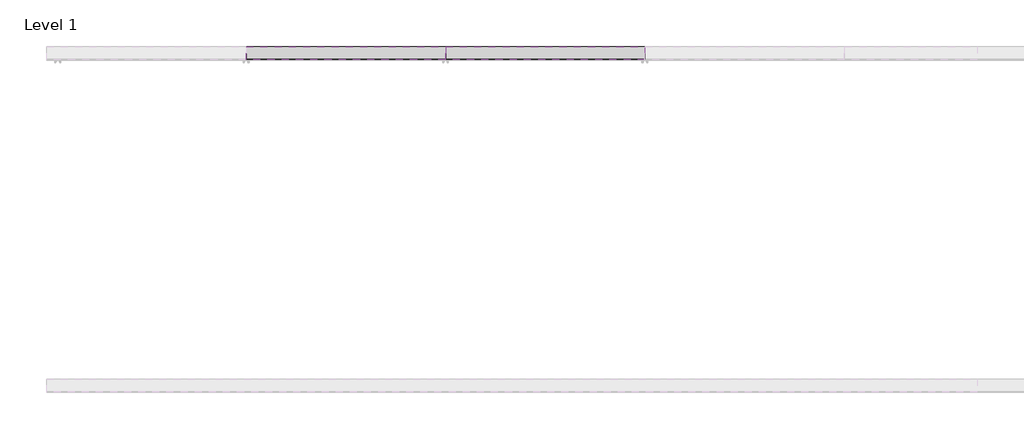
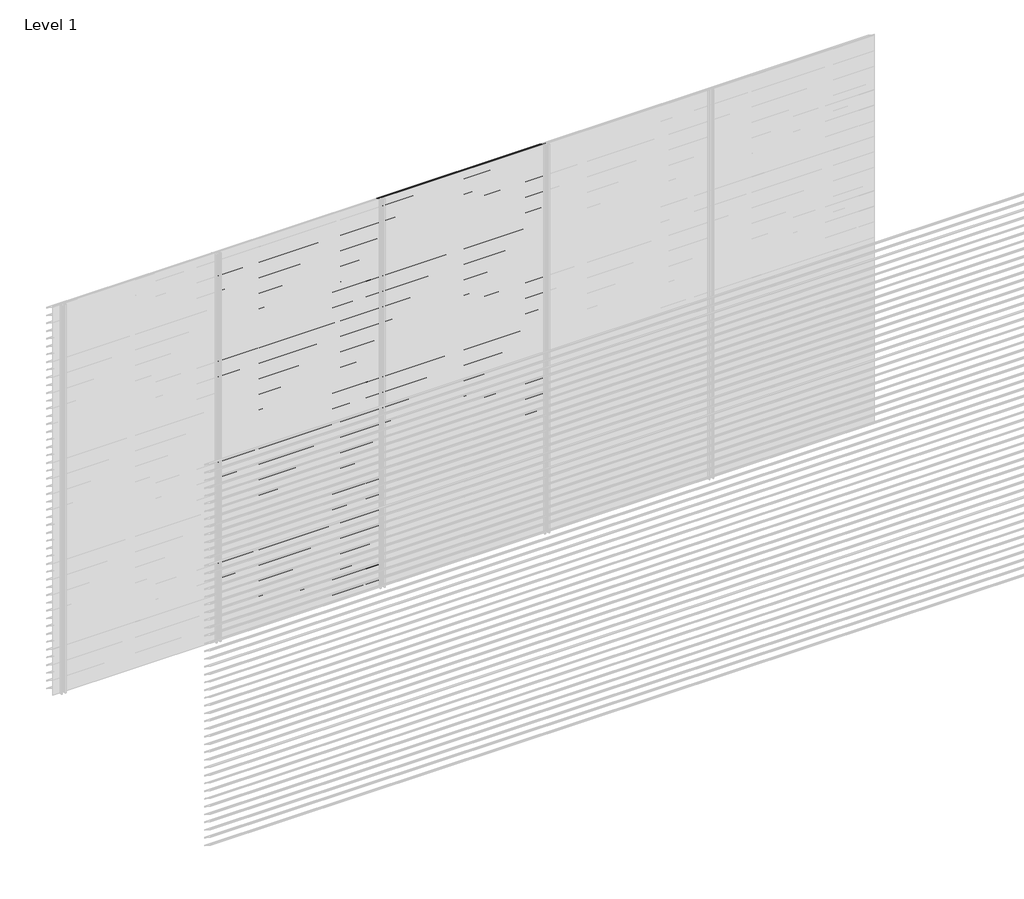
# One storey, part 127 of 153: 84 proxies.
"""IFC4 building model written with IfcOpenShell, lengths in millimetres."""

from ifc_helpers import new_model, si_unit, frame, origin, place, context, project, spatial, polyline, outline, extrude, element, save

model = new_model("IFC4")

# Units and contexts
model_context = context("Model", 3, world=origin())
ifc_project = project(units=[si_unit("LENGTHUNIT", "METRE", prefix="MILLI")], contexts=[model_context])

# Site, building, storey
site = spatial("IfcSite", under=ifc_project)
building = spatial("IfcBuilding", under=site)
storey = spatial("IfcBuildingStorey", under=building, Name="Level 1", Elevation=0.0)

# Proxies
placement = place(None, origin())
element("IfcBuildingElementProxy", 1, Name="Wall Sweeps", at=placement, inside=storey, context=model_context, shape_type="SweptSolid", body=[
    extrude(outline(polyline([(66561.0540136, 2826.0), (66561.0540136, 2820.0), (66559.8040136, 2820.7216933), (66559.8040136, 2825.2538091), (66483.0540136, 2873.9915103), (66483.0540136, 2880.0), (66484.3040136, 2880.0), (66484.3040136, 2874.7377012), (66561.0540136, 2826.0)])), frame((1666.6208099, 0.0, 0.0), z_axis=(1.0, 0.0, 0.0), x_axis=(0.0, 1.0, 0.0)), (0.0, 0.0, 1.0), 1199.9999999),
])
element("IfcBuildingElementProxy", 2, Name="Wall Sweeps", at=placement, inside=storey, context=model_context, shape_type="SweptSolid", body=[
    extrude(outline(polyline([(66561.0540136, 2766.0), (66561.0540136, 2760.0), (66559.8040136, 2760.7216933), (66559.8040136, 2765.2538091), (66483.0540136, 2813.9915103), (66483.0540136, 2820.0), (66484.3040136, 2820.0), (66484.3040136, 2814.7377012), (66561.0540136, 2766.0)])), frame((1666.6208099, 0.0, 0.0), z_axis=(1.0, 0.0, 0.0), x_axis=(0.0, 1.0, 0.0)), (0.0, 0.0, 1.0), 1199.9999999),
])
element("IfcBuildingElementProxy", 3, Name="Wall Sweeps", at=placement, inside=storey, context=model_context, shape_type="SweptSolid", body=[
    extrude(outline(polyline([(66561.0540136, 2706.0), (66561.0540136, 2700.0), (66559.8040136, 2700.7216933), (66559.8040136, 2705.2538091), (66483.0540136, 2753.9915103), (66483.0540136, 2760.0), (66484.3040136, 2760.0), (66484.3040136, 2754.7377012), (66561.0540136, 2706.0)])), frame((1666.6208099, 0.0, 0.0), z_axis=(1.0, 0.0, 0.0), x_axis=(0.0, 1.0, 0.0)), (0.0, 0.0, 1.0), 1199.9999999),
])
element("IfcBuildingElementProxy", 4, Name="Wall Sweeps", at=placement, inside=storey, context=model_context, shape_type="SweptSolid", body=[
    extrude(outline(polyline([(66561.0540136, 2646.0), (66561.0540136, 2640.0), (66559.8040136, 2640.7216933), (66559.8040136, 2645.2538091), (66483.0540136, 2693.9915103), (66483.0540136, 2700.0), (66484.3040136, 2700.0), (66484.3040136, 2694.7377012), (66561.0540136, 2646.0)])), frame((1666.6208099, 0.0, 0.0), z_axis=(1.0, 0.0, 0.0), x_axis=(0.0, 1.0, 0.0)), (0.0, 0.0, 1.0), 1199.9999999),
])
element("IfcBuildingElementProxy", 5, Name="Wall Sweeps", at=placement, inside=storey, context=model_context, shape_type="SweptSolid", body=[
    extrude(outline(polyline([(66561.0540136, 2586.0), (66561.0540136, 2580.0), (66559.8040136, 2580.7216933), (66559.8040136, 2585.2538091), (66483.0540136, 2633.9915103), (66483.0540136, 2640.0), (66484.3040136, 2640.0), (66484.3040136, 2634.7377012), (66561.0540136, 2586.0)])), frame((1666.6208099, 0.0, 0.0), z_axis=(1.0, 0.0, 0.0), x_axis=(0.0, 1.0, 0.0)), (0.0, 0.0, 1.0), 1199.9999999),
])
element("IfcBuildingElementProxy", 6, Name="Wall Sweeps", at=placement, inside=storey, context=model_context, shape_type="SweptSolid", body=[
    extrude(outline(polyline([(66561.0540136, 2526.0), (66561.0540136, 2520.0), (66559.8040136, 2520.7216933), (66559.8040136, 2525.2538091), (66483.0540136, 2573.9915103), (66483.0540136, 2580.0), (66484.3040136, 2580.0), (66484.3040136, 2574.7377012), (66561.0540136, 2526.0)])), frame((1666.6208099, 0.0, 0.0), z_axis=(1.0, 0.0, 0.0), x_axis=(0.0, 1.0, 0.0)), (0.0, 0.0, 1.0), 1199.9999999),
])
element("IfcBuildingElementProxy", 7, Name="Wall Sweeps", at=placement, inside=storey, context=model_context, shape_type="SweptSolid", body=[
    extrude(outline(polyline([(66561.0540136, 2466.0), (66561.0540136, 2460.0), (66559.8040136, 2460.7216933), (66559.8040136, 2465.2538091), (66483.0540136, 2513.9915103), (66483.0540136, 2520.0), (66484.3040136, 2520.0), (66484.3040136, 2514.7377012), (66561.0540136, 2466.0)])), frame((1666.6208099, 0.0, 0.0), z_axis=(1.0, 0.0, 0.0), x_axis=(0.0, 1.0, 0.0)), (0.0, 0.0, 1.0), 1199.9999999),
])
element("IfcBuildingElementProxy", 8, Name="Wall Sweeps", at=placement, inside=storey, context=model_context, shape_type="SweptSolid", body=[
    extrude(outline(polyline([(66561.0540136, 2406.0), (66561.0540136, 2400.0), (66559.8040136, 2400.7216933), (66559.8040136, 2405.2538091), (66483.0540136, 2453.9915103), (66483.0540136, 2460.0), (66484.3040136, 2460.0), (66484.3040136, 2454.7377012), (66561.0540136, 2406.0)])), frame((1666.6208099, 0.0, 0.0), z_axis=(1.0, 0.0, 0.0), x_axis=(0.0, 1.0, 0.0)), (0.0, 0.0, 1.0), 1199.9999999),
])
element("IfcBuildingElementProxy", 9, Name="Wall Sweeps", at=placement, inside=storey, context=model_context, shape_type="SweptSolid", body=[
    extrude(outline(polyline([(66561.0540136, 2346.0), (66561.0540136, 2340.0), (66559.8040136, 2340.7216933), (66559.8040136, 2345.2538091), (66483.0540136, 2393.9915103), (66483.0540136, 2400.0), (66484.3040136, 2400.0), (66484.3040136, 2394.7377012), (66561.0540136, 2346.0)])), frame((1666.6208099, 0.0, 0.0), z_axis=(1.0, 0.0, 0.0), x_axis=(0.0, 1.0, 0.0)), (0.0, 0.0, 1.0), 1199.9999999),
])
element("IfcBuildingElementProxy", 10, Name="Wall Sweeps", at=placement, inside=storey, context=model_context, shape_type="SweptSolid", body=[
    extrude(outline(polyline([(66561.0540136, 2286.0), (66561.0540136, 2280.0), (66559.8040136, 2280.7216933), (66559.8040136, 2285.2538091), (66483.0540136, 2333.9915103), (66483.0540136, 2340.0), (66484.3040136, 2340.0), (66484.3040136, 2334.7377012), (66561.0540136, 2286.0)])), frame((1666.6208099, 0.0, 0.0), z_axis=(1.0, 0.0, 0.0), x_axis=(0.0, 1.0, 0.0)), (0.0, 0.0, 1.0), 1199.9999999),
])
element("IfcBuildingElementProxy", 11, Name="Wall Sweeps", at=placement, inside=storey, context=model_context, shape_type="SweptSolid", body=[
    extrude(outline(polyline([(66561.0540136, 2226.0), (66561.0540136, 2220.0), (66559.8040136, 2220.7216933), (66559.8040136, 2225.2538091), (66483.0540136, 2273.9915103), (66483.0540136, 2280.0), (66484.3040136, 2280.0), (66484.3040136, 2274.7377012), (66561.0540136, 2226.0)])), frame((1666.6208099, 0.0, 0.0), z_axis=(1.0, 0.0, 0.0), x_axis=(0.0, 1.0, 0.0)), (0.0, 0.0, 1.0), 1199.9999999),
])
element("IfcBuildingElementProxy", 12, Name="Wall Sweeps", at=placement, inside=storey, context=model_context, shape_type="SweptSolid", body=[
    extrude(outline(polyline([(66561.0540136, 2166.0), (66561.0540136, 2160.0), (66559.8040136, 2160.7216933), (66559.8040136, 2165.2538091), (66483.0540136, 2213.9915103), (66483.0540136, 2220.0), (66484.3040136, 2220.0), (66484.3040136, 2214.7377012), (66561.0540136, 2166.0)])), frame((1666.6208099, 0.0, 0.0), z_axis=(1.0, 0.0, 0.0), x_axis=(0.0, 1.0, 0.0)), (0.0, 0.0, 1.0), 1199.9999999),
])
element("IfcBuildingElementProxy", 13, Name="Wall Sweeps", at=placement, inside=storey, context=model_context, shape_type="SweptSolid", body=[
    extrude(outline(polyline([(66561.0540136, 2106.0), (66561.0540136, 2100.0), (66559.8040136, 2100.7216933), (66559.8040136, 2105.2538091), (66483.0540136, 2153.9915103), (66483.0540136, 2160.0), (66484.3040136, 2160.0), (66484.3040136, 2154.7377012), (66561.0540136, 2106.0)])), frame((1666.6208099, 0.0, 0.0), z_axis=(1.0, 0.0, 0.0), x_axis=(0.0, 1.0, 0.0)), (0.0, 0.0, 1.0), 1199.9999999),
])
element("IfcBuildingElementProxy", 14, Name="Wall Sweeps", at=placement, inside=storey, context=model_context, shape_type="SweptSolid", body=[
    extrude(outline(polyline([(66561.0540136, 2046.0), (66561.0540136, 2040.0), (66559.8040136, 2040.7216933), (66559.8040136, 2045.2538091), (66483.0540136, 2093.9915103), (66483.0540136, 2100.0), (66484.3040136, 2100.0), (66484.3040136, 2094.7377012), (66561.0540136, 2046.0)])), frame((1666.6208099, 0.0, 0.0), z_axis=(1.0, 0.0, 0.0), x_axis=(0.0, 1.0, 0.0)), (0.0, 0.0, 1.0), 1199.9999999),
])
element("IfcBuildingElementProxy", 15, Name="Wall Sweeps", at=placement, inside=storey, context=model_context, shape_type="SweptSolid", body=[
    extrude(outline(polyline([(66561.0540136, 1986.0), (66561.0540136, 1980.0), (66559.8040136, 1980.7216933), (66559.8040136, 1985.2538091), (66483.0540136, 2033.9915103), (66483.0540136, 2040.0), (66484.3040136, 2040.0), (66484.3040136, 2034.7377012), (66561.0540136, 1986.0)])), frame((1666.6208099, 0.0, 0.0), z_axis=(1.0, 0.0, 0.0), x_axis=(0.0, 1.0, 0.0)), (0.0, 0.0, 1.0), 1199.9999999),
])
element("IfcBuildingElementProxy", 16, Name="Wall Sweeps", at=placement, inside=storey, context=model_context, shape_type="SweptSolid", body=[
    extrude(outline(polyline([(66561.0540136, 1926.0), (66561.0540136, 1920.0), (66559.8040136, 1920.7216933), (66559.8040136, 1925.2538091), (66483.0540136, 1973.9915103), (66483.0540136, 1980.0), (66484.3040136, 1980.0), (66484.3040136, 1974.7377012), (66561.0540136, 1926.0)])), frame((1666.6208099, 0.0, 0.0), z_axis=(1.0, 0.0, 0.0), x_axis=(0.0, 1.0, 0.0)), (0.0, 0.0, 1.0), 1199.9999999),
])
element("IfcBuildingElementProxy", 17, Name="Wall Sweeps", at=placement, inside=storey, context=model_context, shape_type="SweptSolid", body=[
    extrude(outline(polyline([(66561.0540136, 1866.0), (66561.0540136, 1860.0), (66559.8040136, 1860.7216933), (66559.8040136, 1865.2538091), (66483.0540136, 1913.9915103), (66483.0540136, 1920.0), (66484.3040136, 1920.0), (66484.3040136, 1914.7377012), (66561.0540136, 1866.0)])), frame((1666.6208099, 0.0, 0.0), z_axis=(1.0, 0.0, 0.0), x_axis=(0.0, 1.0, 0.0)), (0.0, 0.0, 1.0), 1199.9999999),
])
element("IfcBuildingElementProxy", 18, Name="Wall Sweeps", at=placement, inside=storey, context=model_context, shape_type="SweptSolid", body=[
    extrude(outline(polyline([(66561.0540136, 1806.0), (66561.0540136, 1800.0), (66559.8040136, 1800.7216933), (66559.8040136, 1805.2538091), (66483.0540136, 1853.9915103), (66483.0540136, 1860.0), (66484.3040136, 1860.0), (66484.3040136, 1854.7377012), (66561.0540136, 1806.0)])), frame((1666.6208099, 0.0, 0.0), z_axis=(1.0, 0.0, 0.0), x_axis=(0.0, 1.0, 0.0)), (0.0, 0.0, 1.0), 1199.9999999),
])
element("IfcBuildingElementProxy", 19, Name="Wall Sweeps", at=placement, inside=storey, context=model_context, shape_type="SweptSolid", body=[
    extrude(outline(polyline([(66561.0540136, 1746.0), (66561.0540136, 1740.0), (66559.8040136, 1740.7216933), (66559.8040136, 1745.2538091), (66483.0540136, 1793.9915103), (66483.0540136, 1800.0), (66484.3040136, 1800.0), (66484.3040136, 1794.7377012), (66561.0540136, 1746.0)])), frame((1666.6208099, 0.0, 0.0), z_axis=(1.0, 0.0, 0.0), x_axis=(0.0, 1.0, 0.0)), (0.0, 0.0, 1.0), 1199.9999999),
])
element("IfcBuildingElementProxy", 20, Name="Wall Sweeps", at=placement, inside=storey, context=model_context, shape_type="SweptSolid", body=[
    extrude(outline(polyline([(66561.0540136, 1686.0), (66561.0540136, 1680.0), (66559.8040136, 1680.7216933), (66559.8040136, 1685.2538091), (66483.0540136, 1733.9915103), (66483.0540136, 1740.0), (66484.3040136, 1740.0), (66484.3040136, 1734.7377012), (66561.0540136, 1686.0)])), frame((1666.6208099, 0.0, 0.0), z_axis=(1.0, 0.0, 0.0), x_axis=(0.0, 1.0, 0.0)), (0.0, 0.0, 1.0), 1199.9999999),
])
element("IfcBuildingElementProxy", 21, Name="Wall Sweeps", at=placement, inside=storey, context=model_context, shape_type="SweptSolid", body=[
    extrude(outline(polyline([(66561.0540136, 1626.0), (66561.0540136, 1620.0), (66559.8040136, 1620.7216933), (66559.8040136, 1625.2538091), (66483.0540136, 1673.9915103), (66483.0540136, 1680.0), (66484.3040136, 1680.0), (66484.3040136, 1674.7377012), (66561.0540136, 1626.0)])), frame((1666.6208099, 0.0, 0.0), z_axis=(1.0, 0.0, 0.0), x_axis=(0.0, 1.0, 0.0)), (0.0, 0.0, 1.0), 1199.9999999),
])
element("IfcBuildingElementProxy", 22, Name="Wall Sweeps", at=placement, inside=storey, context=model_context, shape_type="SweptSolid", body=[
    extrude(outline(polyline([(66561.0540136, 1566.0), (66561.0540136, 1560.0), (66559.8040136, 1560.7216933), (66559.8040136, 1565.2538091), (66483.0540136, 1613.9915103), (66483.0540136, 1620.0), (66484.3040136, 1620.0), (66484.3040136, 1614.7377012), (66561.0540136, 1566.0)])), frame((1666.6208099, 0.0, 0.0), z_axis=(1.0, 0.0, 0.0), x_axis=(0.0, 1.0, 0.0)), (0.0, 0.0, 1.0), 1199.9999999),
])
element("IfcBuildingElementProxy", 23, Name="Wall Sweeps", at=placement, inside=storey, context=model_context, shape_type="SweptSolid", body=[
    extrude(outline(polyline([(66561.0540136, 1506.0), (66561.0540136, 1500.0), (66559.8040136, 1500.7216933), (66559.8040136, 1505.2538091), (66483.0540136, 1553.9915103), (66483.0540136, 1560.0), (66484.3040136, 1560.0), (66484.3040136, 1554.7377012), (66561.0540136, 1506.0)])), frame((1666.6208099, 0.0, 0.0), z_axis=(1.0, 0.0, 0.0), x_axis=(0.0, 1.0, 0.0)), (0.0, 0.0, 1.0), 1199.9999999),
])
element("IfcBuildingElementProxy", 24, Name="Wall Sweeps", at=placement, inside=storey, context=model_context, shape_type="SweptSolid", body=[
    extrude(outline(polyline([(66561.0540136, 1446.0), (66561.0540136, 1440.0), (66559.8040136, 1440.7216933), (66559.8040136, 1445.2538091), (66483.0540136, 1493.9915103), (66483.0540136, 1500.0), (66484.3040136, 1500.0), (66484.3040136, 1494.7377012), (66561.0540136, 1446.0)])), frame((1666.6208099, 0.0, 0.0), z_axis=(1.0, 0.0, 0.0), x_axis=(0.0, 1.0, 0.0)), (0.0, 0.0, 1.0), 1199.9999999),
])
element("IfcBuildingElementProxy", 25, Name="Wall Sweeps", at=placement, inside=storey, context=model_context, shape_type="SweptSolid", body=[
    extrude(outline(polyline([(66561.0540136, 1386.0), (66561.0540136, 1380.0), (66559.8040136, 1380.7216933), (66559.8040136, 1385.2538091), (66483.0540136, 1433.9915103), (66483.0540136, 1440.0), (66484.3040136, 1440.0), (66484.3040136, 1434.7377012), (66561.0540136, 1386.0)])), frame((1666.6208099, 0.0, 0.0), z_axis=(1.0, 0.0, 0.0), x_axis=(0.0, 1.0, 0.0)), (0.0, 0.0, 1.0), 1199.9999999),
])
element("IfcBuildingElementProxy", 26, Name="Wall Sweeps", at=placement, inside=storey, context=model_context, shape_type="SweptSolid", body=[
    extrude(outline(polyline([(66561.0540136, 1326.0), (66561.0540136, 1320.0), (66559.8040136, 1320.7216933), (66559.8040136, 1325.2538091), (66483.0540136, 1373.9915103), (66483.0540136, 1380.0), (66484.3040136, 1380.0), (66484.3040136, 1374.7377012), (66561.0540136, 1326.0)])), frame((1666.6208099, 0.0, 0.0), z_axis=(1.0, 0.0, 0.0), x_axis=(0.0, 1.0, 0.0)), (0.0, 0.0, 1.0), 1199.9999999),
])
element("IfcBuildingElementProxy", 27, Name="Wall Sweeps", at=placement, inside=storey, context=model_context, shape_type="SweptSolid", body=[
    extrude(outline(polyline([(66561.0540136, 1266.0), (66561.0540136, 1260.0), (66559.8040136, 1260.7216933), (66559.8040136, 1265.2538091), (66483.0540136, 1313.9915103), (66483.0540136, 1320.0), (66484.3040136, 1320.0), (66484.3040136, 1314.7377012), (66561.0540136, 1266.0)])), frame((1666.6208099, 0.0, 0.0), z_axis=(1.0, 0.0, 0.0), x_axis=(0.0, 1.0, 0.0)), (0.0, 0.0, 1.0), 1199.9999999),
])
element("IfcBuildingElementProxy", 28, Name="Wall Sweeps", at=placement, inside=storey, context=model_context, shape_type="SweptSolid", body=[
    extrude(outline(polyline([(66561.0540136, 1206.0), (66561.0540136, 1200.0), (66559.8040136, 1200.7216933), (66559.8040136, 1205.2538091), (66483.0540136, 1253.9915103), (66483.0540136, 1260.0), (66484.3040136, 1260.0), (66484.3040136, 1254.7377012), (66561.0540136, 1206.0)])), frame((1666.6208099, 0.0, 0.0), z_axis=(1.0, 0.0, 0.0), x_axis=(0.0, 1.0, 0.0)), (0.0, 0.0, 1.0), 1199.9999999),
])
element("IfcBuildingElementProxy", 29, Name="Wall Sweeps", at=placement, inside=storey, context=model_context, shape_type="SweptSolid", body=[
    extrude(outline(polyline([(66561.0540136, 1146.0), (66561.0540136, 1140.0), (66559.8040136, 1140.7216933), (66559.8040136, 1145.2538091), (66483.0540136, 1193.9915103), (66483.0540136, 1200.0), (66484.3040136, 1200.0), (66484.3040136, 1194.7377012), (66561.0540136, 1146.0)])), frame((1666.6208099, 0.0, 0.0), z_axis=(1.0, 0.0, 0.0), x_axis=(0.0, 1.0, 0.0)), (0.0, 0.0, 1.0), 1199.9999999),
])
element("IfcBuildingElementProxy", 30, Name="Wall Sweeps", at=placement, inside=storey, context=model_context, shape_type="SweptSolid", body=[
    extrude(outline(polyline([(66561.0540136, 1086.0), (66561.0540136, 1080.0), (66559.8040136, 1080.7216933), (66559.8040136, 1085.2538091), (66483.0540136, 1133.9915103), (66483.0540136, 1140.0), (66484.3040136, 1140.0), (66484.3040136, 1134.7377012), (66561.0540136, 1086.0)])), frame((1666.6208099, 0.0, 0.0), z_axis=(1.0, 0.0, 0.0), x_axis=(0.0, 1.0, 0.0)), (0.0, 0.0, 1.0), 1199.9999999),
])
element("IfcBuildingElementProxy", 31, Name="Wall Sweeps", at=placement, inside=storey, context=model_context, shape_type="SweptSolid", body=[
    extrude(outline(polyline([(66561.0540136, 1026.0), (66561.0540136, 1020.0), (66559.8040136, 1020.7216933), (66559.8040136, 1025.2538091), (66483.0540136, 1073.9915103), (66483.0540136, 1080.0), (66484.3040136, 1080.0), (66484.3040136, 1074.7377012), (66561.0540136, 1026.0)])), frame((1666.6208099, 0.0, 0.0), z_axis=(1.0, 0.0, 0.0), x_axis=(0.0, 1.0, 0.0)), (0.0, 0.0, 1.0), 1199.9999999),
])
element("IfcBuildingElementProxy", 32, Name="Wall Sweeps", at=placement, inside=storey, context=model_context, shape_type="SweptSolid", body=[
    extrude(outline(polyline([(66561.0540136, 966.0), (66561.0540136, 960.0), (66559.8040136, 960.7216933), (66559.8040136, 965.2538091), (66483.0540136, 1013.9915103), (66483.0540136, 1020.0), (66484.3040136, 1020.0), (66484.3040136, 1014.7377012), (66561.0540136, 966.0)])), frame((1666.6208099, 0.0, 0.0), z_axis=(1.0, 0.0, 0.0), x_axis=(0.0, 1.0, 0.0)), (0.0, 0.0, 1.0), 1199.9999999),
])
element("IfcBuildingElementProxy", 33, Name="Wall Sweeps", at=placement, inside=storey, context=model_context, shape_type="SweptSolid", body=[
    extrude(outline(polyline([(66561.0540136, 906.0), (66561.0540136, 900.0), (66559.8040136, 900.7216933), (66559.8040136, 905.2538091), (66483.0540136, 953.9915103), (66483.0540136, 960.0), (66484.3040136, 960.0), (66484.3040136, 954.7377012), (66561.0540136, 906.0)])), frame((1666.6208099, 0.0, 0.0), z_axis=(1.0, 0.0, 0.0), x_axis=(0.0, 1.0, 0.0)), (0.0, 0.0, 1.0), 1199.9999999),
])
element("IfcBuildingElementProxy", 34, Name="Wall Sweeps", at=placement, inside=storey, context=model_context, shape_type="SweptSolid", body=[
    extrude(outline(polyline([(66561.0540136, 846.0), (66561.0540136, 840.0), (66559.8040136, 840.7216933), (66559.8040136, 845.2538091), (66483.0540136, 893.9915103), (66483.0540136, 900.0), (66484.3040136, 900.0), (66484.3040136, 894.7377012), (66561.0540136, 846.0)])), frame((1666.6208099, 0.0, 0.0), z_axis=(1.0, 0.0, 0.0), x_axis=(0.0, 1.0, 0.0)), (0.0, 0.0, 1.0), 1199.9999999),
])
element("IfcBuildingElementProxy", 35, Name="Wall Sweeps", at=placement, inside=storey, context=model_context, shape_type="SweptSolid", body=[
    extrude(outline(polyline([(66561.0540136, 786.0), (66561.0540136, 780.0), (66559.8040136, 780.7216933), (66559.8040136, 785.2538091), (66483.0540136, 833.9915103), (66483.0540136, 840.0), (66484.3040136, 840.0), (66484.3040136, 834.7377012), (66561.0540136, 786.0)])), frame((1666.6208099, 0.0, 0.0), z_axis=(1.0, 0.0, 0.0), x_axis=(0.0, 1.0, 0.0)), (0.0, 0.0, 1.0), 1199.9999999),
])
element("IfcBuildingElementProxy", 36, Name="Wall Sweeps", at=placement, inside=storey, context=model_context, shape_type="SweptSolid", body=[
    extrude(outline(polyline([(66561.0540136, 726.0), (66561.0540136, 720.0), (66559.8040136, 720.7216933), (66559.8040136, 725.2538091), (66483.0540136, 773.9915103), (66483.0540136, 780.0), (66484.3040136, 780.0), (66484.3040136, 774.7377012), (66561.0540136, 726.0)])), frame((1666.6208099, 0.0, 0.0), z_axis=(1.0, 0.0, 0.0), x_axis=(0.0, 1.0, 0.0)), (0.0, 0.0, 1.0), 1199.9999999),
])
element("IfcBuildingElementProxy", 37, Name="Wall Sweeps", at=placement, inside=storey, context=model_context, shape_type="SweptSolid", body=[
    extrude(outline(polyline([(66561.0540136, 666.0), (66561.0540136, 660.0), (66559.8040136, 660.7216933), (66559.8040136, 665.2538091), (66483.0540136, 713.9915103), (66483.0540136, 720.0), (66484.3040136, 720.0), (66484.3040136, 714.7377012), (66561.0540136, 666.0)])), frame((1666.6208099, 0.0, 0.0), z_axis=(1.0, 0.0, 0.0), x_axis=(0.0, 1.0, 0.0)), (0.0, 0.0, 1.0), 1199.9999999),
])
element("IfcBuildingElementProxy", 38, Name="Wall Sweeps", at=placement, inside=storey, context=model_context, shape_type="SweptSolid", body=[
    extrude(outline(polyline([(66561.0540136, 606.0), (66561.0540136, 600.0), (66559.8040136, 600.7216933), (66559.8040136, 605.2538091), (66483.0540136, 653.9915103), (66483.0540136, 660.0), (66484.3040136, 660.0), (66484.3040136, 654.7377012), (66561.0540136, 606.0)])), frame((1666.6208099, 0.0, 0.0), z_axis=(1.0, 0.0, 0.0), x_axis=(0.0, 1.0, 0.0)), (0.0, 0.0, 1.0), 1199.9999999),
])
element("IfcBuildingElementProxy", 39, Name="Wall Sweeps", at=placement, inside=storey, context=model_context, shape_type="SweptSolid", body=[
    extrude(outline(polyline([(66561.0540136, 546.0), (66561.0540136, 540.0), (66559.8040136, 540.7216933), (66559.8040136, 545.2538091), (66483.0540136, 593.9915103), (66483.0540136, 600.0), (66484.3040136, 600.0), (66484.3040136, 594.7377012), (66561.0540136, 546.0)])), frame((1666.6208099, 0.0, 0.0), z_axis=(1.0, 0.0, 0.0), x_axis=(0.0, 1.0, 0.0)), (0.0, 0.0, 1.0), 1199.9999999),
])
element("IfcBuildingElementProxy", 40, Name="Wall Sweeps", at=placement, inside=storey, context=model_context, shape_type="SweptSolid", body=[
    extrude(outline(polyline([(66561.0540136, 486.0), (66561.0540136, 480.0), (66559.8040136, 480.7216933), (66559.8040136, 485.2538091), (66483.0540136, 533.9915103), (66483.0540136, 540.0), (66484.3040136, 540.0), (66484.3040136, 534.7377012), (66561.0540136, 486.0)])), frame((1666.6208099, 0.0, 0.0), z_axis=(1.0, 0.0, 0.0), x_axis=(0.0, 1.0, 0.0)), (0.0, 0.0, 1.0), 1199.9999999),
])
element("IfcBuildingElementProxy", 41, Name="Wall Sweeps", at=placement, inside=storey, context=model_context, shape_type="SweptSolid", body=[
    extrude(outline(polyline([(66561.0540136, 426.0), (66561.0540136, 420.0), (66559.8040136, 420.7216933), (66559.8040136, 425.2538091), (66483.0540136, 473.9915103), (66483.0540136, 480.0), (66484.3040136, 480.0), (66484.3040136, 474.7377012), (66561.0540136, 426.0)])), frame((1666.6208099, 0.0, 0.0), z_axis=(1.0, 0.0, 0.0), x_axis=(0.0, 1.0, 0.0)), (0.0, 0.0, 1.0), 1199.9999999),
])
element("IfcBuildingElementProxy", 42, Name="Wall Sweeps", at=placement, inside=storey, context=model_context, shape_type="SweptSolid", body=[
    extrude(outline(polyline([(66561.0540136, 366.0), (66561.0540136, 360.0), (66559.8040136, 360.7216933), (66559.8040136, 365.2538091), (66483.0540136, 413.9915103), (66483.0540136, 420.0), (66484.3040136, 420.0), (66484.3040136, 414.7377012), (66561.0540136, 366.0)])), frame((1666.6208099, 0.0, 0.0), z_axis=(1.0, 0.0, 0.0), x_axis=(0.0, 1.0, 0.0)), (0.0, 0.0, 1.0), 1199.9999999),
])
element("IfcBuildingElementProxy", 43, Name="Wall Sweeps", at=placement, inside=storey, context=model_context, shape_type="SweptSolid", body=[
    extrude(outline(polyline([(66561.0540136, 306.0), (66561.0540136, 300.0), (66559.8040136, 300.7216933), (66559.8040136, 305.2538091), (66483.0540136, 353.9915103), (66483.0540136, 360.0), (66484.3040136, 360.0), (66484.3040136, 354.7377012), (66561.0540136, 306.0)])), frame((1666.6208099, 0.0, 0.0), z_axis=(1.0, 0.0, 0.0), x_axis=(0.0, 1.0, 0.0)), (0.0, 0.0, 1.0), 1199.9999999),
])
element("IfcBuildingElementProxy", 44, Name="Wall Sweeps", at=placement, inside=storey, context=model_context, shape_type="SweptSolid", body=[
    extrude(outline(polyline([(66561.0540136, 246.0), (66561.0540136, 240.0), (66559.8040136, 240.7216933), (66559.8040136, 245.2538091), (66483.0540136, 293.9915103), (66483.0540136, 300.0), (66484.3040136, 300.0), (66484.3040136, 294.7377012), (66561.0540136, 246.0)])), frame((1666.6208099, 0.0, 0.0), z_axis=(1.0, 0.0, 0.0), x_axis=(0.0, 1.0, 0.0)), (0.0, 0.0, 1.0), 1199.9999999),
])
element("IfcBuildingElementProxy", 45, Name="Wall Sweeps", at=placement, inside=storey, context=model_context, shape_type="SweptSolid", body=[
    extrude(outline(polyline([(66561.0540136, 186.0), (66561.0540136, 180.0), (66559.8040136, 180.7216933), (66559.8040136, 185.2538091), (66483.0540136, 233.9915103), (66483.0540136, 240.0), (66484.3040136, 240.0), (66484.3040136, 234.7377012), (66561.0540136, 186.0)])), frame((1666.6208099, 0.0, 0.0), z_axis=(1.0, 0.0, 0.0), x_axis=(0.0, 1.0, 0.0)), (0.0, 0.0, 1.0), 1199.9999999),
])
element("IfcBuildingElementProxy", 46, Name="Wall Sweeps", at=placement, inside=storey, context=model_context, shape_type="SweptSolid", body=[
    extrude(outline(polyline([(66561.0540136, 126.0), (66561.0540136, 120.0), (66559.8040136, 120.7216933), (66559.8040136, 125.2538091), (66483.0540136, 173.9915103), (66483.0540136, 180.0), (66484.3040136, 180.0), (66484.3040136, 174.7377012), (66561.0540136, 126.0)])), frame((1666.6208099, 0.0, 0.0), z_axis=(1.0, 0.0, 0.0), x_axis=(0.0, 1.0, 0.0)), (0.0, 0.0, 1.0), 1199.9999999),
])
element("IfcBuildingElementProxy", 47, Name="Wall Sweeps", at=placement, inside=storey, context=model_context, shape_type="SweptSolid", body=[
    extrude(outline(polyline([(66561.0540136, 66.0), (66561.0540136, 60.0), (66559.8040136, 60.7216933), (66559.8040136, 65.2538091), (66483.0540136, 113.9915103), (66483.0540136, 120.0), (66484.3040136, 120.0), (66484.3040136, 114.7377012), (66561.0540136, 66.0)])), frame((1666.6208099, 0.0, 0.0), z_axis=(1.0, 0.0, 0.0), x_axis=(0.0, 1.0, 0.0)), (0.0, 0.0, 1.0), 1199.9999999),
])
element("IfcBuildingElementProxy", 48, Name="Wall Sweeps", at=placement, inside=storey, context=model_context, shape_type="SweptSolid", body=[
    extrude(outline(polyline([(66561.0540136, 6.0), (66561.0540136, 0.0), (66559.8040136, 0.7216933), (66559.8040136, 5.2538091), (66483.0540136, 53.9915103), (66483.0540136, 60.0), (66484.3040136, 60.0), (66484.3040136, 54.7377012), (66561.0540136, 6.0)])), frame((1666.6208099, 0.0, 0.0), z_axis=(1.0, 0.0, 0.0), x_axis=(0.0, 1.0, 0.0)), (0.0, 0.0, 1.0), 1199.9999999),
])
element("IfcBuildingElementProxy", 49, Name="Wall Sweeps", at=placement, inside=storey, context=model_context, shape_type="SweptSolid", body=[
    extrude(outline(polyline([(66561.0540136, 2946.0), (66561.0540136, 2940.0), (66559.8040136, 2940.7216933), (66559.8040136, 2945.2538091), (66483.0540136, 2993.9915103), (66483.0540136, 3000.0), (66484.3040136, 3000.0), (66484.3040136, 2994.7377012), (66561.0540136, 2946.0)])), frame((2866.6208097, 0.0, 0.0), z_axis=(1.0, 0.0, 0.0), x_axis=(0.0, 1.0, 0.0)), (0.0, 0.0, 1.0), 1199.9999999),
])
element("IfcBuildingElementProxy", 50, Name="Wall Sweeps", at=placement, inside=storey, context=model_context, shape_type="SweptSolid", body=[
    extrude(outline(polyline([(66561.0540136, 2886.0), (66561.0540136, 2880.0), (66559.8040136, 2880.7216933), (66559.8040136, 2885.2538091), (66483.0540136, 2933.9915103), (66483.0540136, 2940.0), (66484.3040136, 2940.0), (66484.3040136, 2934.7377012), (66561.0540136, 2886.0)])), frame((2866.6208097, 0.0, 0.0), z_axis=(1.0, 0.0, 0.0), x_axis=(0.0, 1.0, 0.0)), (0.0, 0.0, 1.0), 1199.9999999),
])
element("IfcBuildingElementProxy", 51, Name="Wall Sweeps", at=placement, inside=storey, context=model_context, shape_type="SweptSolid", body=[
    extrude(outline(polyline([(66561.0540136, 2826.0), (66561.0540136, 2820.0), (66559.8040136, 2820.7216933), (66559.8040136, 2825.2538091), (66483.0540136, 2873.9915103), (66483.0540136, 2880.0), (66484.3040136, 2880.0), (66484.3040136, 2874.7377012), (66561.0540136, 2826.0)])), frame((2866.6208097, 0.0, 0.0), z_axis=(1.0, 0.0, 0.0), x_axis=(0.0, 1.0, 0.0)), (0.0, 0.0, 1.0), 1199.9999999),
])
element("IfcBuildingElementProxy", 52, Name="Wall Sweeps", at=placement, inside=storey, context=model_context, shape_type="SweptSolid", body=[
    extrude(outline(polyline([(66561.0540136, 2766.0), (66561.0540136, 2760.0), (66559.8040136, 2760.7216933), (66559.8040136, 2765.2538091), (66483.0540136, 2813.9915103), (66483.0540136, 2820.0), (66484.3040136, 2820.0), (66484.3040136, 2814.7377012), (66561.0540136, 2766.0)])), frame((2866.6208097, 0.0, 0.0), z_axis=(1.0, 0.0, 0.0), x_axis=(0.0, 1.0, 0.0)), (0.0, 0.0, 1.0), 1199.9999999),
])
element("IfcBuildingElementProxy", 53, Name="Wall Sweeps", at=placement, inside=storey, context=model_context, shape_type="SweptSolid", body=[
    extrude(outline(polyline([(66561.0540136, 2706.0), (66561.0540136, 2700.0), (66559.8040136, 2700.7216933), (66559.8040136, 2705.2538091), (66483.0540136, 2753.9915103), (66483.0540136, 2760.0), (66484.3040136, 2760.0), (66484.3040136, 2754.7377012), (66561.0540136, 2706.0)])), frame((2866.6208097, 0.0, 0.0), z_axis=(1.0, 0.0, 0.0), x_axis=(0.0, 1.0, 0.0)), (0.0, 0.0, 1.0), 1199.9999999),
])
element("IfcBuildingElementProxy", 54, Name="Wall Sweeps", at=placement, inside=storey, context=model_context, shape_type="SweptSolid", body=[
    extrude(outline(polyline([(66561.0540136, 2646.0), (66561.0540136, 2640.0), (66559.8040136, 2640.7216933), (66559.8040136, 2645.2538091), (66483.0540136, 2693.9915103), (66483.0540136, 2700.0), (66484.3040136, 2700.0), (66484.3040136, 2694.7377012), (66561.0540136, 2646.0)])), frame((2866.6208097, 0.0, 0.0), z_axis=(1.0, 0.0, 0.0), x_axis=(0.0, 1.0, 0.0)), (0.0, 0.0, 1.0), 1199.9999999),
])
element("IfcBuildingElementProxy", 55, Name="Wall Sweeps", at=placement, inside=storey, context=model_context, shape_type="SweptSolid", body=[
    extrude(outline(polyline([(66561.0540136, 2586.0), (66561.0540136, 2580.0), (66559.8040136, 2580.7216933), (66559.8040136, 2585.2538091), (66483.0540136, 2633.9915103), (66483.0540136, 2640.0), (66484.3040136, 2640.0), (66484.3040136, 2634.7377012), (66561.0540136, 2586.0)])), frame((2866.6208097, 0.0, 0.0), z_axis=(1.0, 0.0, 0.0), x_axis=(0.0, 1.0, 0.0)), (0.0, 0.0, 1.0), 1199.9999999),
])
element("IfcBuildingElementProxy", 56, Name="Wall Sweeps", at=placement, inside=storey, context=model_context, shape_type="SweptSolid", body=[
    extrude(outline(polyline([(66561.0540136, 2526.0), (66561.0540136, 2520.0), (66559.8040136, 2520.7216933), (66559.8040136, 2525.2538091), (66483.0540136, 2573.9915103), (66483.0540136, 2580.0), (66484.3040136, 2580.0), (66484.3040136, 2574.7377012), (66561.0540136, 2526.0)])), frame((2866.6208097, 0.0, 0.0), z_axis=(1.0, 0.0, 0.0), x_axis=(0.0, 1.0, 0.0)), (0.0, 0.0, 1.0), 1199.9999999),
])
element("IfcBuildingElementProxy", 57, Name="Wall Sweeps", at=placement, inside=storey, context=model_context, shape_type="SweptSolid", body=[
    extrude(outline(polyline([(66561.0540136, 2466.0), (66561.0540136, 2460.0), (66559.8040136, 2460.7216933), (66559.8040136, 2465.2538091), (66483.0540136, 2513.9915103), (66483.0540136, 2520.0), (66484.3040136, 2520.0), (66484.3040136, 2514.7377012), (66561.0540136, 2466.0)])), frame((2866.6208097, 0.0, 0.0), z_axis=(1.0, 0.0, 0.0), x_axis=(0.0, 1.0, 0.0)), (0.0, 0.0, 1.0), 1199.9999999),
])
element("IfcBuildingElementProxy", 58, Name="Wall Sweeps", at=placement, inside=storey, context=model_context, shape_type="SweptSolid", body=[
    extrude(outline(polyline([(66561.0540136, 2406.0), (66561.0540136, 2400.0), (66559.8040136, 2400.7216933), (66559.8040136, 2405.2538091), (66483.0540136, 2453.9915103), (66483.0540136, 2460.0), (66484.3040136, 2460.0), (66484.3040136, 2454.7377012), (66561.0540136, 2406.0)])), frame((2866.6208097, 0.0, 0.0), z_axis=(1.0, 0.0, 0.0), x_axis=(0.0, 1.0, 0.0)), (0.0, 0.0, 1.0), 1199.9999999),
])
element("IfcBuildingElementProxy", 59, Name="Wall Sweeps", at=placement, inside=storey, context=model_context, shape_type="SweptSolid", body=[
    extrude(outline(polyline([(66561.0540136, 2346.0), (66561.0540136, 2340.0), (66559.8040136, 2340.7216933), (66559.8040136, 2345.2538091), (66483.0540136, 2393.9915103), (66483.0540136, 2400.0), (66484.3040136, 2400.0), (66484.3040136, 2394.7377012), (66561.0540136, 2346.0)])), frame((2866.6208097, 0.0, 0.0), z_axis=(1.0, 0.0, 0.0), x_axis=(0.0, 1.0, 0.0)), (0.0, 0.0, 1.0), 1199.9999999),
])
element("IfcBuildingElementProxy", 60, Name="Wall Sweeps", at=placement, inside=storey, context=model_context, shape_type="SweptSolid", body=[
    extrude(outline(polyline([(66561.0540136, 2286.0), (66561.0540136, 2280.0), (66559.8040136, 2280.7216933), (66559.8040136, 2285.2538091), (66483.0540136, 2333.9915103), (66483.0540136, 2340.0), (66484.3040136, 2340.0), (66484.3040136, 2334.7377012), (66561.0540136, 2286.0)])), frame((2866.6208097, 0.0, 0.0), z_axis=(1.0, 0.0, 0.0), x_axis=(0.0, 1.0, 0.0)), (0.0, 0.0, 1.0), 1199.9999999),
])
element("IfcBuildingElementProxy", 61, Name="Wall Sweeps", at=placement, inside=storey, context=model_context, shape_type="SweptSolid", body=[
    extrude(outline(polyline([(66561.0540136, 2226.0), (66561.0540136, 2220.0), (66559.8040136, 2220.7216933), (66559.8040136, 2225.2538091), (66483.0540136, 2273.9915103), (66483.0540136, 2280.0), (66484.3040136, 2280.0), (66484.3040136, 2274.7377012), (66561.0540136, 2226.0)])), frame((2866.6208097, 0.0, 0.0), z_axis=(1.0, 0.0, 0.0), x_axis=(0.0, 1.0, 0.0)), (0.0, 0.0, 1.0), 1199.9999999),
])
element("IfcBuildingElementProxy", 62, Name="Wall Sweeps", at=placement, inside=storey, context=model_context, shape_type="SweptSolid", body=[
    extrude(outline(polyline([(66561.0540136, 2166.0), (66561.0540136, 2160.0), (66559.8040136, 2160.7216933), (66559.8040136, 2165.2538091), (66483.0540136, 2213.9915103), (66483.0540136, 2220.0), (66484.3040136, 2220.0), (66484.3040136, 2214.7377012), (66561.0540136, 2166.0)])), frame((2866.6208097, 0.0, 0.0), z_axis=(1.0, 0.0, 0.0), x_axis=(0.0, 1.0, 0.0)), (0.0, 0.0, 1.0), 1199.9999999),
])
element("IfcBuildingElementProxy", 63, Name="Wall Sweeps", at=placement, inside=storey, context=model_context, shape_type="SweptSolid", body=[
    extrude(outline(polyline([(66561.0540136, 2106.0), (66561.0540136, 2100.0), (66559.8040136, 2100.7216933), (66559.8040136, 2105.2538091), (66483.0540136, 2153.9915103), (66483.0540136, 2160.0), (66484.3040136, 2160.0), (66484.3040136, 2154.7377012), (66561.0540136, 2106.0)])), frame((2866.6208097, 0.0, 0.0), z_axis=(1.0, 0.0, 0.0), x_axis=(0.0, 1.0, 0.0)), (0.0, 0.0, 1.0), 1199.9999999),
])
element("IfcBuildingElementProxy", 64, Name="Wall Sweeps", at=placement, inside=storey, context=model_context, shape_type="SweptSolid", body=[
    extrude(outline(polyline([(66561.0540136, 2046.0), (66561.0540136, 2040.0), (66559.8040136, 2040.7216933), (66559.8040136, 2045.2538091), (66483.0540136, 2093.9915103), (66483.0540136, 2100.0), (66484.3040136, 2100.0), (66484.3040136, 2094.7377012), (66561.0540136, 2046.0)])), frame((2866.6208097, 0.0, 0.0), z_axis=(1.0, 0.0, 0.0), x_axis=(0.0, 1.0, 0.0)), (0.0, 0.0, 1.0), 1199.9999999),
])
element("IfcBuildingElementProxy", 65, Name="Wall Sweeps", at=placement, inside=storey, context=model_context, shape_type="SweptSolid", body=[
    extrude(outline(polyline([(66561.0540136, 1986.0), (66561.0540136, 1980.0), (66559.8040136, 1980.7216933), (66559.8040136, 1985.2538091), (66483.0540136, 2033.9915103), (66483.0540136, 2040.0), (66484.3040136, 2040.0), (66484.3040136, 2034.7377012), (66561.0540136, 1986.0)])), frame((2866.6208097, 0.0, 0.0), z_axis=(1.0, 0.0, 0.0), x_axis=(0.0, 1.0, 0.0)), (0.0, 0.0, 1.0), 1199.9999999),
])
element("IfcBuildingElementProxy", 66, Name="Wall Sweeps", at=placement, inside=storey, context=model_context, shape_type="SweptSolid", body=[
    extrude(outline(polyline([(66561.0540136, 1926.0), (66561.0540136, 1920.0), (66559.8040136, 1920.7216933), (66559.8040136, 1925.2538091), (66483.0540136, 1973.9915103), (66483.0540136, 1980.0), (66484.3040136, 1980.0), (66484.3040136, 1974.7377012), (66561.0540136, 1926.0)])), frame((2866.6208097, 0.0, 0.0), z_axis=(1.0, 0.0, 0.0), x_axis=(0.0, 1.0, 0.0)), (0.0, 0.0, 1.0), 1199.9999999),
])
element("IfcBuildingElementProxy", 67, Name="Wall Sweeps", at=placement, inside=storey, context=model_context, shape_type="SweptSolid", body=[
    extrude(outline(polyline([(66561.0540136, 1866.0), (66561.0540136, 1860.0), (66559.8040136, 1860.7216933), (66559.8040136, 1865.2538091), (66483.0540136, 1913.9915103), (66483.0540136, 1920.0), (66484.3040136, 1920.0), (66484.3040136, 1914.7377012), (66561.0540136, 1866.0)])), frame((2866.6208097, 0.0, 0.0), z_axis=(1.0, 0.0, 0.0), x_axis=(0.0, 1.0, 0.0)), (0.0, 0.0, 1.0), 1199.9999999),
])
element("IfcBuildingElementProxy", 68, Name="Wall Sweeps", at=placement, inside=storey, context=model_context, shape_type="SweptSolid", body=[
    extrude(outline(polyline([(66561.0540136, 1806.0), (66561.0540136, 1800.0), (66559.8040136, 1800.7216933), (66559.8040136, 1805.2538091), (66483.0540136, 1853.9915103), (66483.0540136, 1860.0), (66484.3040136, 1860.0), (66484.3040136, 1854.7377012), (66561.0540136, 1806.0)])), frame((2866.6208097, 0.0, 0.0), z_axis=(1.0, 0.0, 0.0), x_axis=(0.0, 1.0, 0.0)), (0.0, 0.0, 1.0), 1199.9999999),
])
element("IfcBuildingElementProxy", 69, Name="Wall Sweeps", at=placement, inside=storey, context=model_context, shape_type="SweptSolid", body=[
    extrude(outline(polyline([(66561.0540136, 1746.0), (66561.0540136, 1740.0), (66559.8040136, 1740.7216933), (66559.8040136, 1745.2538091), (66483.0540136, 1793.9915103), (66483.0540136, 1800.0), (66484.3040136, 1800.0), (66484.3040136, 1794.7377012), (66561.0540136, 1746.0)])), frame((2866.6208097, 0.0, 0.0), z_axis=(1.0, 0.0, 0.0), x_axis=(0.0, 1.0, 0.0)), (0.0, 0.0, 1.0), 1199.9999999),
])
element("IfcBuildingElementProxy", 70, Name="Wall Sweeps", at=placement, inside=storey, context=model_context, shape_type="SweptSolid", body=[
    extrude(outline(polyline([(66561.0540136, 1686.0), (66561.0540136, 1680.0), (66559.8040136, 1680.7216933), (66559.8040136, 1685.2538091), (66483.0540136, 1733.9915103), (66483.0540136, 1740.0), (66484.3040136, 1740.0), (66484.3040136, 1734.7377012), (66561.0540136, 1686.0)])), frame((2866.6208097, 0.0, 0.0), z_axis=(1.0, 0.0, 0.0), x_axis=(0.0, 1.0, 0.0)), (0.0, 0.0, 1.0), 1199.9999999),
])
element("IfcBuildingElementProxy", 71, Name="Wall Sweeps", at=placement, inside=storey, context=model_context, shape_type="SweptSolid", body=[
    extrude(outline(polyline([(66561.0540136, 1626.0), (66561.0540136, 1620.0), (66559.8040136, 1620.7216933), (66559.8040136, 1625.2538091), (66483.0540136, 1673.9915103), (66483.0540136, 1680.0), (66484.3040136, 1680.0), (66484.3040136, 1674.7377012), (66561.0540136, 1626.0)])), frame((2866.6208097, 0.0, 0.0), z_axis=(1.0, 0.0, 0.0), x_axis=(0.0, 1.0, 0.0)), (0.0, 0.0, 1.0), 1199.9999999),
])
element("IfcBuildingElementProxy", 72, Name="Wall Sweeps", at=placement, inside=storey, context=model_context, shape_type="SweptSolid", body=[
    extrude(outline(polyline([(66561.0540136, 1566.0), (66561.0540136, 1560.0), (66559.8040136, 1560.7216933), (66559.8040136, 1565.2538091), (66483.0540136, 1613.9915103), (66483.0540136, 1620.0), (66484.3040136, 1620.0), (66484.3040136, 1614.7377012), (66561.0540136, 1566.0)])), frame((2866.6208097, 0.0, 0.0), z_axis=(1.0, 0.0, 0.0), x_axis=(0.0, 1.0, 0.0)), (0.0, 0.0, 1.0), 1199.9999999),
])
element("IfcBuildingElementProxy", 73, Name="Wall Sweeps", at=placement, inside=storey, context=model_context, shape_type="SweptSolid", body=[
    extrude(outline(polyline([(66561.0540136, 1506.0), (66561.0540136, 1500.0), (66559.8040136, 1500.7216933), (66559.8040136, 1505.2538091), (66483.0540136, 1553.9915103), (66483.0540136, 1560.0), (66484.3040136, 1560.0), (66484.3040136, 1554.7377012), (66561.0540136, 1506.0)])), frame((2866.6208097, 0.0, 0.0), z_axis=(1.0, 0.0, 0.0), x_axis=(0.0, 1.0, 0.0)), (0.0, 0.0, 1.0), 1199.9999999),
])
element("IfcBuildingElementProxy", 74, Name="Wall Sweeps", at=placement, inside=storey, context=model_context, shape_type="SweptSolid", body=[
    extrude(outline(polyline([(66561.0540136, 1446.0), (66561.0540136, 1440.0), (66559.8040136, 1440.7216933), (66559.8040136, 1445.2538091), (66483.0540136, 1493.9915103), (66483.0540136, 1500.0), (66484.3040136, 1500.0), (66484.3040136, 1494.7377012), (66561.0540136, 1446.0)])), frame((2866.6208097, 0.0, 0.0), z_axis=(1.0, 0.0, 0.0), x_axis=(0.0, 1.0, 0.0)), (0.0, 0.0, 1.0), 1199.9999999),
])
element("IfcBuildingElementProxy", 75, Name="Wall Sweeps", at=placement, inside=storey, context=model_context, shape_type="SweptSolid", body=[
    extrude(outline(polyline([(66561.0540136, 1386.0), (66561.0540136, 1380.0), (66559.8040136, 1380.7216933), (66559.8040136, 1385.2538091), (66483.0540136, 1433.9915103), (66483.0540136, 1440.0), (66484.3040136, 1440.0), (66484.3040136, 1434.7377012), (66561.0540136, 1386.0)])), frame((2866.6208097, 0.0, 0.0), z_axis=(1.0, 0.0, 0.0), x_axis=(0.0, 1.0, 0.0)), (0.0, 0.0, 1.0), 1199.9999999),
])
element("IfcBuildingElementProxy", 76, Name="Wall Sweeps", at=placement, inside=storey, context=model_context, shape_type="SweptSolid", body=[
    extrude(outline(polyline([(66561.0540136, 1326.0), (66561.0540136, 1320.0), (66559.8040136, 1320.7216933), (66559.8040136, 1325.2538091), (66483.0540136, 1373.9915103), (66483.0540136, 1380.0), (66484.3040136, 1380.0), (66484.3040136, 1374.7377012), (66561.0540136, 1326.0)])), frame((2866.6208097, 0.0, 0.0), z_axis=(1.0, 0.0, 0.0), x_axis=(0.0, 1.0, 0.0)), (0.0, 0.0, 1.0), 1199.9999999),
])
element("IfcBuildingElementProxy", 77, Name="Wall Sweeps", at=placement, inside=storey, context=model_context, shape_type="SweptSolid", body=[
    extrude(outline(polyline([(66561.0540136, 1266.0), (66561.0540136, 1260.0), (66559.8040136, 1260.7216933), (66559.8040136, 1265.2538091), (66483.0540136, 1313.9915103), (66483.0540136, 1320.0), (66484.3040136, 1320.0), (66484.3040136, 1314.7377012), (66561.0540136, 1266.0)])), frame((2866.6208097, 0.0, 0.0), z_axis=(1.0, 0.0, 0.0), x_axis=(0.0, 1.0, 0.0)), (0.0, 0.0, 1.0), 1199.9999999),
])
element("IfcBuildingElementProxy", 78, Name="Wall Sweeps", at=placement, inside=storey, context=model_context, shape_type="SweptSolid", body=[
    extrude(outline(polyline([(66561.0540136, 1206.0), (66561.0540136, 1200.0), (66559.8040136, 1200.7216933), (66559.8040136, 1205.2538091), (66483.0540136, 1253.9915103), (66483.0540136, 1260.0), (66484.3040136, 1260.0), (66484.3040136, 1254.7377012), (66561.0540136, 1206.0)])), frame((2866.6208097, 0.0, 0.0), z_axis=(1.0, 0.0, 0.0), x_axis=(0.0, 1.0, 0.0)), (0.0, 0.0, 1.0), 1199.9999999),
])
element("IfcBuildingElementProxy", 79, Name="Wall Sweeps", at=placement, inside=storey, context=model_context, shape_type="SweptSolid", body=[
    extrude(outline(polyline([(66561.0540136, 1146.0), (66561.0540136, 1140.0), (66559.8040136, 1140.7216933), (66559.8040136, 1145.2538091), (66483.0540136, 1193.9915103), (66483.0540136, 1200.0), (66484.3040136, 1200.0), (66484.3040136, 1194.7377012), (66561.0540136, 1146.0)])), frame((2866.6208097, 0.0, 0.0), z_axis=(1.0, 0.0, 0.0), x_axis=(0.0, 1.0, 0.0)), (0.0, 0.0, 1.0), 1199.9999999),
])
element("IfcBuildingElementProxy", 80, Name="Wall Sweeps", at=placement, inside=storey, context=model_context, shape_type="SweptSolid", body=[
    extrude(outline(polyline([(66561.0540136, 1086.0), (66561.0540136, 1080.0), (66559.8040136, 1080.7216933), (66559.8040136, 1085.2538091), (66483.0540136, 1133.9915103), (66483.0540136, 1140.0), (66484.3040136, 1140.0), (66484.3040136, 1134.7377012), (66561.0540136, 1086.0)])), frame((2866.6208097, 0.0, 0.0), z_axis=(1.0, 0.0, 0.0), x_axis=(0.0, 1.0, 0.0)), (0.0, 0.0, 1.0), 1199.9999999),
])
element("IfcBuildingElementProxy", 81, Name="Wall Sweeps", at=placement, inside=storey, context=model_context, shape_type="SweptSolid", body=[
    extrude(outline(polyline([(66561.0540136, 1026.0), (66561.0540136, 1020.0), (66559.8040136, 1020.7216933), (66559.8040136, 1025.2538091), (66483.0540136, 1073.9915103), (66483.0540136, 1080.0), (66484.3040136, 1080.0), (66484.3040136, 1074.7377012), (66561.0540136, 1026.0)])), frame((2866.6208097, 0.0, 0.0), z_axis=(1.0, 0.0, 0.0), x_axis=(0.0, 1.0, 0.0)), (0.0, 0.0, 1.0), 1199.9999999),
])
element("IfcBuildingElementProxy", 82, Name="Wall Sweeps", at=placement, inside=storey, context=model_context, shape_type="SweptSolid", body=[
    extrude(outline(polyline([(66561.0540136, 966.0), (66561.0540136, 960.0), (66559.8040136, 960.7216933), (66559.8040136, 965.2538091), (66483.0540136, 1013.9915103), (66483.0540136, 1020.0), (66484.3040136, 1020.0), (66484.3040136, 1014.7377012), (66561.0540136, 966.0)])), frame((2866.6208097, 0.0, 0.0), z_axis=(1.0, 0.0, 0.0), x_axis=(0.0, 1.0, 0.0)), (0.0, 0.0, 1.0), 1199.9999999),
])
element("IfcBuildingElementProxy", 83, Name="Wall Sweeps", at=placement, inside=storey, context=model_context, shape_type="SweptSolid", body=[
    extrude(outline(polyline([(66561.0540136, 906.0), (66561.0540136, 900.0), (66559.8040136, 900.7216933), (66559.8040136, 905.2538091), (66483.0540136, 953.9915103), (66483.0540136, 960.0), (66484.3040136, 960.0), (66484.3040136, 954.7377012), (66561.0540136, 906.0)])), frame((2866.6208097, 0.0, 0.0), z_axis=(1.0, 0.0, 0.0), x_axis=(0.0, 1.0, 0.0)), (0.0, 0.0, 1.0), 1199.9999999),
])
element("IfcBuildingElementProxy", 84, Name="Wall Sweeps", at=placement, inside=storey, context=model_context, shape_type="SweptSolid", body=[
    extrude(outline(polyline([(66561.0540136, 846.0), (66561.0540136, 840.0), (66559.8040136, 840.7216933), (66559.8040136, 845.2538091), (66483.0540136, 893.9915103), (66483.0540136, 900.0), (66484.3040136, 900.0), (66484.3040136, 894.7377012), (66561.0540136, 846.0)])), frame((2866.6208097, 0.0, 0.0), z_axis=(1.0, 0.0, 0.0), x_axis=(0.0, 1.0, 0.0)), (0.0, 0.0, 1.0), 1199.9999999),
])

save(model, "model.ifc")
